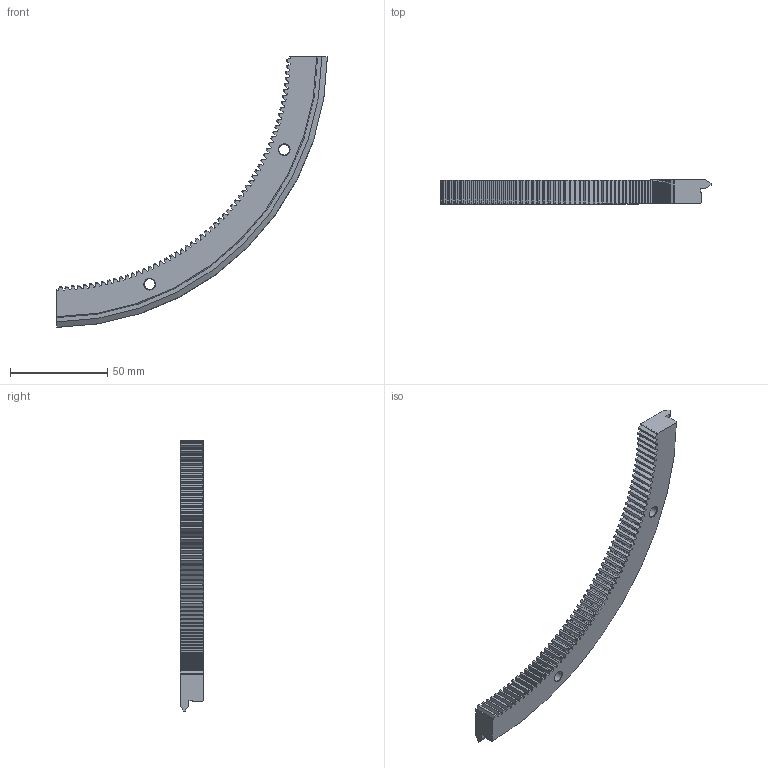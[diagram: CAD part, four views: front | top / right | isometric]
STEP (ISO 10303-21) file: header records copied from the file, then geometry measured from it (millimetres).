
FILE_DESCRIPTION( ( 'STEP AP203' ), '1' );
FILE_NAME( 'p:/temp/worker_44/temp/exporttempdir_3448_850_gXoht/format_0/RES 280 R90 Q.stp', '2021-08-30T05:08:22', ( 'License CC BY-ND 4.0' ), ( 'CADENAS' ), ' ', 'PARTsolutions', ' ' );
FILE_SCHEMA( ( 'CONFIG_CONTROL_DESIGN' ) );
Length unit declared in the file: millimetre
Products named in the file (1): _RES 280 R90 Q
Bounding box: 138.99 x 12.25 x 138.99 mm (x, y, z)
Volume: 38782.3 mm3; surface area: 15465.3 mm2
Topology: 1 solids, 1 shells, 318 faces, 940 edges, 626 vertices
Faces by surface type: plane 128, cylinder 125, cone 64, torus 1
Full cylindrical faces by diameter (mm): 5.5 x2, 10 x2
Entity records: 10864 total; most frequent: CARTESIAN_POINT 2269, ORIENTED_EDGE 1868, DIRECTION 1762, EDGE_CURVE 934, AXIS2_PLACEMENT_3D 635, VERTEX_POINT 626, LINE 492, VECTOR 492
